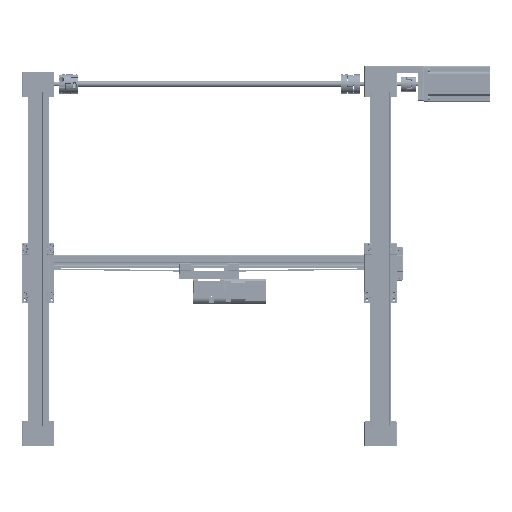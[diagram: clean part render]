
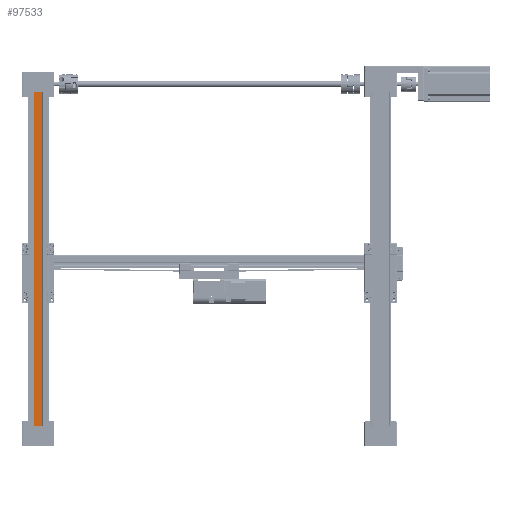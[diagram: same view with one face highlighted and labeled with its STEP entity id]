
A CAD part, front view. The second image highlights one B-rep face of the part: STEP entity #97533.
In plain terms, the highlighted planar face has unit normal (0, -1, 0).
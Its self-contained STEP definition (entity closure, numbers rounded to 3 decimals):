
#6319=PLANE('',#103413);
#9445=FACE_OUTER_BOUND('',#15159,.T.);
#15159=EDGE_LOOP('',(#67975,#67976,#67977,#67978));
#26159=LINE('',#140638,#34971);
#26303=LINE('',#141078,#35115);
#26348=LINE('',#141173,#35160);
#26349=LINE('',#141175,#35161);
#34971=VECTOR('',#112796,14.);
#35115=VECTOR('',#113134,14.);
#35160=VECTOR('',#113263,558.);
#35161=VECTOR('',#113266,558.);
#43784=VERTEX_POINT('',#140635);
#43785=VERTEX_POINT('',#140637);
#43983=VERTEX_POINT('',#141075);
#43984=VERTEX_POINT('',#141077);
#53409=EDGE_CURVE('',#43784,#43785,#26159,.T.);
#53633=EDGE_CURVE('',#43983,#43984,#26303,.T.);
#53682=EDGE_CURVE('',#43785,#43983,#26348,.T.);
#53683=EDGE_CURVE('',#43984,#43784,#26349,.T.);
#67975=ORIENTED_EDGE('',*,*,#53682,.F.);
#67976=ORIENTED_EDGE('',*,*,#53409,.F.);
#67977=ORIENTED_EDGE('',*,*,#53683,.F.);
#67978=ORIENTED_EDGE('',*,*,#53633,.F.);
#97533=ADVANCED_FACE('',(#9445),#6319,.F.);
#103413=AXIS2_PLACEMENT_3D('',#141176,#113267,#113268);
#112796=DIRECTION('',(-1.,0.,0.));
#113134=DIRECTION('',(1.,0.,0.));
#113263=DIRECTION('',(0.,0.,1.));
#113266=DIRECTION('',(0.,0.,-1.));
#113267=DIRECTION('center_axis',(0.,1.,0.));
#113268=DIRECTION('ref_axis',(0.,0.,1.));
#140635=CARTESIAN_POINT('',(22.,-19.,0.));
#140637=CARTESIAN_POINT('',(8.,-19.,0.));
#140638=CARTESIAN_POINT('',(14.555,-19.,0.));
#141075=CARTESIAN_POINT('',(8.,-19.,558.));
#141077=CARTESIAN_POINT('',(22.,-19.,558.));
#141078=CARTESIAN_POINT('',(14.555,-19.,558.));
#141173=CARTESIAN_POINT('',(8.,-19.,558.));
#141175=CARTESIAN_POINT('',(22.,-19.,558.));
#141176=CARTESIAN_POINT('Origin',(22.5,-19.,558.));
